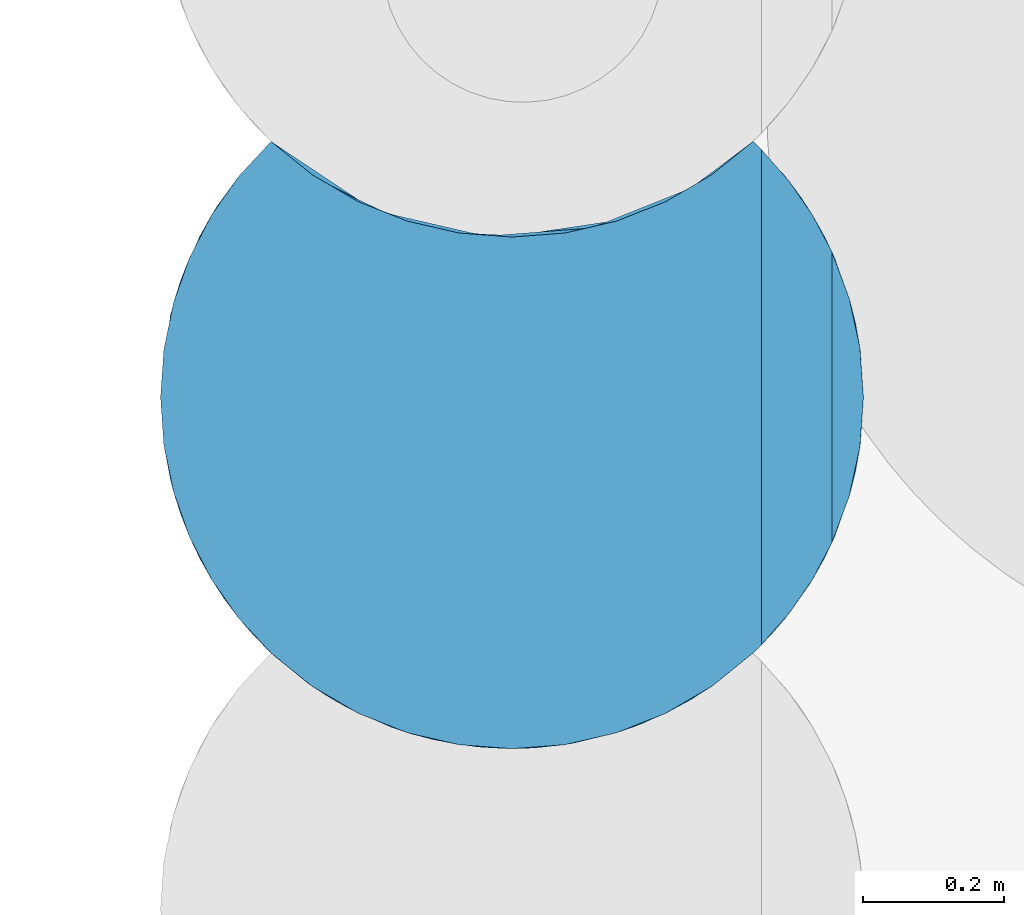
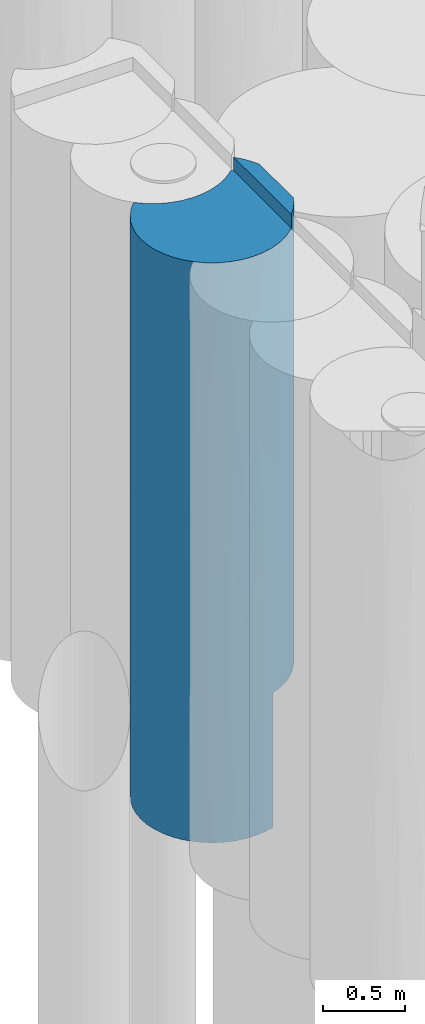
# One storey, part 18 of 104: 1 pile.
"""IFC2X3 building model written with IfcOpenShell, lengths in millimetres."""

from ifc_helpers import new_model, entity, si_unit, converted_unit, derived_unit, direction, frame, origin, place, context, subcontext, project, spatial, faceted_brep, source, transform, mapped, material, element, save


model = new_model("IFC2X3")

# Units and contexts
model_context = context("Model", 3, precision=0.01, world=origin(), true_north=direction((6.12303176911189e-17, 1.0)))
body_context = subcontext(model_context, "Body", "Model", "MODEL_VIEW")
ifc_project = project(units=[si_unit("LENGTHUNIT", "METRE", prefix="MILLI"), si_unit("AREAUNIT", "SQUARE_METRE", prefix="MILLI"), si_unit("VOLUMEUNIT", "CUBIC_METRE"), converted_unit("PLANEANGLEUNIT", "DEGREE", entity("IfcRatioMeasure", 0.0174532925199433), si_unit("PLANEANGLEUNIT", "RADIAN"), dimensions=[0, 0, 0, 0, 0, 0, 0]), si_unit("MASSUNIT", "GRAM", prefix="KILO"), derived_unit("MASSDENSITYUNIT", [(si_unit("MASSUNIT", "GRAM", prefix="KILO"), 1), (si_unit("LENGTHUNIT", "METRE"), -3)]), derived_unit("MOMENTOFINERTIAUNIT", [(si_unit("LENGTHUNIT", "METRE"), 4)]), si_unit("TIMEUNIT", "SECOND"), si_unit("FREQUENCYUNIT", "HERTZ"), si_unit("THERMODYNAMICTEMPERATUREUNIT", "DEGREE_CELSIUS"), derived_unit("THERMALTRANSMITTANCEUNIT", [(si_unit("MASSUNIT", "GRAM", prefix="KILO"), 1), (si_unit("THERMODYNAMICTEMPERATUREUNIT", "KELVIN"), -1), (si_unit("TIMEUNIT", "SECOND"), -3)]), derived_unit("VOLUMETRICFLOWRATEUNIT", [(si_unit("LENGTHUNIT", "METRE"), 3), (si_unit("TIMEUNIT", "SECOND"), -1)]), si_unit("ELECTRICCURRENTUNIT", "AMPERE"), si_unit("ELECTRICVOLTAGEUNIT", "VOLT"), si_unit("POWERUNIT", "WATT"), si_unit("FORCEUNIT", "NEWTON", prefix="KILO"), si_unit("ILLUMINANCEUNIT", "LUX"), si_unit("LUMINOUSFLUXUNIT", "LUMEN"), si_unit("LUMINOUSINTENSITYUNIT", "CANDELA"), derived_unit("USERDEFINED", [(si_unit("MASSUNIT", "GRAM", prefix="KILO"), -1), (si_unit("LENGTHUNIT", "METRE"), -2), (si_unit("TIMEUNIT", "SECOND"), 3), (si_unit("LUMINOUSFLUXUNIT", "LUMEN"), 1)]), derived_unit("LINEARVELOCITYUNIT", [(si_unit("LENGTHUNIT", "METRE"), 1), (si_unit("TIMEUNIT", "SECOND"), -1)]), si_unit("PRESSUREUNIT", "PASCAL"), derived_unit("USERDEFINED", [(si_unit("LENGTHUNIT", "METRE"), -2), (si_unit("MASSUNIT", "GRAM", prefix="KILO"), 1), (si_unit("TIMEUNIT", "SECOND"), -2)]), derived_unit("LINEARFORCEUNIT", [(si_unit("MASSUNIT", "GRAM", prefix="KILO"), 1), (si_unit("LENGTHUNIT", "METRE"), 1), (si_unit("TIMEUNIT", "SECOND"), -2), (si_unit("LENGTHUNIT", "METRE"), -1)]), derived_unit("PLANARFORCEUNIT", [(si_unit("MASSUNIT", "GRAM", prefix="KILO"), 1), (si_unit("LENGTHUNIT", "METRE"), 1), (si_unit("TIMEUNIT", "SECOND"), -2), (si_unit("LENGTHUNIT", "METRE"), -2)])], contexts=[model_context])

# Site, building, storey
site_placement = place(None, origin())
site = spatial("IfcSite", under=ifc_project, at=site_placement, Name="Theater aan de Parade", CompositionType="ELEMENT")
building_placement = place(site_placement, origin())
building = spatial("IfcBuilding", under=site, at=building_placement, Name="Theater aan de Parade", CompositionType="ELEMENT")
storey_placement = place(building_placement, frame((0.0, 0.0, -5520.0)))
storey = spatial("IfcBuildingStorey", under=building, at=storey_placement, Name="-2 kelder", CompositionType="ELEMENT", Elevation=-5520.0)

# Pile
ifc_material = material(Name="00_PBT_MAT_grout")
shared_shape = source(origin(), body_context, "Body", "Brep", [
    faceted_brep([(267.323279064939, 787.875187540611, 0.0), (328.369525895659, 760.561328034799, 0.0), (392.511444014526, 741.639620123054, 0.0), (458.603757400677, 731.446971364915, 0.0), (525.466685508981, 730.165441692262, 0.0), (591.906634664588, 737.819044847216, 0.0), (656.737142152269, 754.273275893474, 0.0), (656.737142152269, 26.2732758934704, 0.0), (591.893916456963, 9.81670940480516, 0.0), (525.446263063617, 2.16446597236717, 0.0), (458.576192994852, 3.44935101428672, 0.0), (392.48089006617, 13.6464515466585, 0.0), (328.341208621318, 32.5717872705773, 0.0), (267.302846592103, 59.8860247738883, 0.0), (210.456079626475, 95.1005360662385, 0.0), (158.824861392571, 137.584495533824, 0.0), (112.665117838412, 187.376662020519, 0.0), (73.6828393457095, 242.96242478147, 0.0), (42.5887722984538, 303.320127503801, 0.0), (19.9574025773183, 367.338196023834, 0.0), (6.20806806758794, 433.834531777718, 0.0), (1.5952722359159, 501.595272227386, 0.0), (6.20818208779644, 569.356846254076, 0.0), (19.9555085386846, 635.845553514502, 0.0), (42.5833371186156, 699.857834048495, 0.0), (73.6726367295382, 760.211238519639, 0.0), (112.651085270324, 815.796512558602, 0.0), (158.806707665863, 865.595272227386, 0.0), (210.467388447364, 823.092436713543, 0.0), (996.985169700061, 569.336319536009, 1000.0), (983.239874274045, 635.828194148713, 1000.0), (990.78787753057, 604.990605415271, 2046.74388221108), (956.737142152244, 708.587731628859, 4220.0), (913.164689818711, 785.515356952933, 3409.23226430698), (929.194279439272, 760.745979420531, 4420.0), (981.489086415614, 641.958825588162, 4220.0), (996.543202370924, 572.493413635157, 4220.0), (990.252070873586, 607.49396506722, 3133.13649523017), (946.092881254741, 730.553512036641, 2544.3070393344), (844.383836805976, 865.59527222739, 1780.76883738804), (844.383836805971, 865.595272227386, 2561.53770628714), (844.383836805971, 865.59527222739, 2758.4623252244), (958.757648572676, 704.086165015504, 3361.07160063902), (895.702066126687, 809.296157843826, 4420.0), (1001.59527223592, 501.595272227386, 1000.0), (1001.59527223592, 501.595272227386, 3390.76887054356), (956.737142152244, 708.587731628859, 4420.0), (1001.59527223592, 501.595272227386, 2561.53774108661), (960.61285484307, 699.844758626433, 1000.0), (856.737142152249, 853.553014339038, 4320.0), (850.61243060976, 859.627426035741, 4320.0), (844.383836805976, 865.595272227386, 3440.76885314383), (844.383836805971, 865.59527222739, 4320.0), (890.538738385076, 815.797404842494, 1000.0), (844.383836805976, 865.59527222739, 1000.0), (1001.59527223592, 501.595272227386, 4220.0), (929.521362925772, 760.205521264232, 1000.0), (856.737142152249, 853.553014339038, 4420.0), (57.1101078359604, 272.612874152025, 1316.49280707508), (946.091792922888, 272.634919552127, 2497.84558901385), (990.787651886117, 398.198871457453, 2046.72670191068), (990.252071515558, 395.696582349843, 3133.13650739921), (756.716999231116, 71.580267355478, 1930.84616082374), (868.311668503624, 161.714286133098, 1823.04093486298), (847.500261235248, 140.555470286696, 2660.0), (134.892306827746, 161.699795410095, 1057.44780840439), (491.989719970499, 1.68754737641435, 1404.68734990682), (360.094293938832, 22.0356063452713, 1052.824173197), (539.334595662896, 3.02156306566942, 2901.77612704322), (691.143383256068, 38.9166433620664, 2656.11014799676), (670.01019924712, 30.8125066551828, 3485.90902426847), (576.855722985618, 7.29185877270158, 4320.0), (650.397164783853, 24.2505364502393, 4320.0), (996.982304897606, 433.83327793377, 1000.0), (983.235932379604, 367.348207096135, 1000.0), (92.2110047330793, 214.533394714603, 3172.2535251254), (30.1799105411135, 334.95927144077, 3445.3851444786), (30.1799105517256, 334.959271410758, 2516.73624277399), (19.9546063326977, 367.348227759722, 4320.0), (6.20831854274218, 433.832700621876, 4320.0), (238.290103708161, 76.5418776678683, 1404.63078403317), (847.500261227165, 140.555470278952, 3490.46984000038), (785.707955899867, 90.1587850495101, 4320.0), (753.846971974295, 69.8904193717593, 3399.95181773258), (112.643720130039, 187.40314929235, 4320.0), (73.6672637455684, 242.988196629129, 4320.0), (787.532221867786, 91.4245018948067, 1000.0), (844.383836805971, 137.595272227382, 1000.0), (890.546344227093, 187.402554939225, 1000.0), (929.522843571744, 242.987473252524, 1000.0), (1.5952722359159, 501.595272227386, 1561.53161059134), (1.5952722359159, 501.595272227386, 2940.77462173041), (674.417605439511, 32.4125347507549, 1827.33519803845), (585.825722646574, 8.74110391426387, 1571.19592302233), (656.73714215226, 26.2732758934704, 1000.0), (42.5805162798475, 303.33924126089, 4320.0), (1.59527223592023, 501.595272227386, 4320.0), (134.892306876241, 161.699795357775, 2159.99586512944), (15.8912046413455, 382.887400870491, 1514.9217274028), (1.5952722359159, 501.595272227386, 2758.45715325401), (389.247683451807, 14.380720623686, 3244.88794352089), (249.345077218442, 69.8895401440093, 2978.06322869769), (360.094293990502, 22.0356063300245, 2149.62656965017), (720.54721601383, 52.0843754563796, 4320.0), (163.035278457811, 133.658958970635, 3084.10388307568), (282.64537661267, 52.0833778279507, 4320.0), (217.483581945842, 90.1580990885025, 4320.0), (426.339538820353, 7.29114055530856, 4320.0), (352.79668917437, 24.2495048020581, 4320.0), (501.598192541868, 1.5952722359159, 4320.0), (449.071524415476, 4.36166926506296, 2521.18102248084), (956.737142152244, 294.602812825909, 4220.0), (929.203275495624, 242.459409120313, 4420.0), (925.786159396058, 236.902825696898, 3422.73924696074), (960.609833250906, 303.338789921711, 1000.0), (724.530883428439, 54.0467125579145, 1000.0), (996.54320237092, 430.697130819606, 4220.0), (981.489086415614, 361.231718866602, 4220.0), (844.383836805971, 137.595272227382, 4320.0), (850.591123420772, 143.54234896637, 4320.0), (856.737142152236, 149.637530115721, 4320.0), (72.9794499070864, 244.129785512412, 2273.29113064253), (158.806707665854, 137.595272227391, 4320.0), (895.734515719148, 193.9359529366, 4420.0), (856.737142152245, 149.63753011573, 4420.0), (956.737142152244, 294.602812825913, 4420.0), (297.389215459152, 773.196448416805, 1404.47162504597), (613.937329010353, 742.379445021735, 2653.03150973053), (530.994805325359, 730.460353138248, 2050.76406694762), (463.861374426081, 731.021152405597, 3233.09526452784), (656.737142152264, 754.273275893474, 1000.0), (492.01377186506, 729.687085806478, 1140.51945206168), (619.657892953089, 743.733957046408, 1789.43089182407), (227.11070635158, 811.673960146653, 3337.61357922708), (158.806707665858, 865.59527222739, 2758.4622926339), (158.806707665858, 865.595272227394, 4320.0), (282.655959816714, 780.07822307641, 4320.0), (352.804483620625, 752.247075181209, 4320.0), (317.204383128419, 764.837270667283, 3016.85071920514), (501.595272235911, 729.595272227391, 4320.0), (576.847851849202, 735.290660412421, 4320.0), (613.937328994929, 742.379445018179, 3522.64310373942), (753.834283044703, 797.883005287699, 3166.78787605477), (756.706671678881, 799.574140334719, 2057.42784165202), (425.387004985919, 735.437099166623, 2149.06733909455), (392.465961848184, 741.649790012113, 1269.58220085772), (158.806707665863, 865.59527222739, 1379.22947627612), (158.806707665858, 865.59527222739, 1561.53770736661), (785.695330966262, 818.150067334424, 4320.0), (240.874329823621, 802.951872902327, 2287.63634853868), (426.342692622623, 735.290660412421, 4320.0), (720.534584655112, 780.078223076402, 4320.0), (724.52149740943, 782.042037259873, 1000.0), (650.386060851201, 752.247075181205, 4320.0), (787.521122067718, 819.416764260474, 1000.0), (335.032355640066, 758.154083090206, 2177.10511890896), (217.495213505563, 818.150067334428, 4320.0), (112.651806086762, 815.797404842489, 4320.0), (73.6691815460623, 760.205521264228, 4320.0), (42.5776896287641, 699.844758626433, 4320.0), (19.9506701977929, 635.828194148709, 4320.0), (6.20537477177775, 569.336319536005, 4320.0), (15.4611002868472, 618.529300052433, 1993.01692752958), (30.1816558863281, 668.236210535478, 982.635361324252), (82.1945983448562, 773.814071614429, 2804.88372013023), (57.1024527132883, 730.562810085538, 1803.15273010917), (73.0275224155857, 759.140770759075, 926.606949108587), (30.1762796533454, 668.221000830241, 3003.46839526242)], [[[0, 1, 2, 3, 4, 5, 6, 7, 8, 9, 10, 11, 12, 13, 14, 15, 16, 17, 18, 19, 20, 21, 22, 23, 24, 25, 26, 27, 28]], [[29, 30, 31]], [[32, 33, 34]], [[35, 36, 37]], [[38, 39, 40, 41]], [[35, 37, 42]], [[37, 31, 38]], [[42, 38, 33]], [[33, 43, 34]], [[44, 29, 31]], [[36, 45, 37]], [[46, 32, 34]], [[38, 41, 33]], [[35, 42, 32]], [[31, 47, 44]], [[31, 30, 48]], [[48, 38, 31]], [[31, 37, 47]], [[49, 41, 50]], [[50, 41, 51, 52]], [[53, 54, 39]], [[42, 33, 32]], [[45, 36, 55]], [[38, 48, 56]], [[53, 39, 38]], [[57, 43, 49]], [[33, 49, 43]], [[49, 33, 41]], [[45, 47, 37]], [[53, 38, 56]], [[37, 38, 42]], [[18, 17, 58]], [[59, 60, 61]], [[62, 63, 64]], [[65, 58, 17]], [[10, 66, 67]], [[68, 69, 70]], [[71, 70, 72]], [[19, 18, 58]], [[65, 16, 15]], [[73, 60, 74]], [[67, 12, 11]], [[75, 76, 77]], [[76, 78, 79]], [[66, 10, 9]], [[13, 80, 14]], [[81, 82, 83]], [[13, 12, 67]], [[83, 62, 64]], [[83, 69, 62]], [[80, 13, 67]], [[84, 85, 75]], [[63, 86, 87]], [[63, 88, 89]], [[83, 70, 69]], [[21, 20, 90]], [[79, 91, 76]], [[92, 93, 94]], [[76, 85, 95]], [[77, 76, 91]], [[96, 91, 79]], [[68, 66, 93]], [[80, 97, 65]], [[76, 95, 78]], [[98, 91, 99, 90]], [[75, 85, 76]], [[100, 101, 102]], [[60, 73, 44]], [[103, 70, 83]], [[104, 84, 75]], [[97, 104, 75]], [[100, 105, 101]], [[105, 106, 101]], [[100, 107, 108]], [[14, 80, 65]], [[68, 109, 100]], [[19, 58, 98]], [[110, 68, 100]], [[111, 112, 113]], [[102, 67, 66]], [[68, 92, 69]], [[94, 8, 7]], [[100, 108, 105]], [[93, 9, 8]], [[114, 74, 60]], [[92, 115, 62]], [[104, 97, 101]], [[63, 59, 64]], [[92, 62, 69]], [[62, 86, 63]], [[68, 71, 109]], [[47, 61, 60]], [[80, 101, 97]], [[67, 11, 10]], [[45, 116, 61]], [[89, 114, 59]], [[101, 80, 102]], [[64, 59, 113]], [[115, 86, 62]], [[65, 17, 16]], [[89, 59, 63]], [[117, 61, 116]], [[109, 107, 100]], [[64, 113, 81]], [[59, 61, 113]], [[64, 81, 83]], [[82, 103, 83]], [[44, 47, 60]], [[58, 77, 98]], [[70, 103, 72]], [[118, 81, 119]], [[88, 63, 87]], [[119, 81, 120]], [[71, 68, 70]], [[82, 81, 118]], [[45, 55, 116]], [[61, 111, 113]], [[121, 75, 77]], [[104, 106, 122]], [[65, 15, 14]], [[120, 123, 124]], [[111, 61, 117]], [[120, 81, 123]], [[125, 112, 111]], [[58, 65, 97]], [[59, 114, 60]], [[113, 123, 81]], [[75, 121, 97]], [[19, 98, 20]], [[123, 113, 112]], [[8, 94, 93]], [[100, 102, 110]], [[80, 67, 102]], [[115, 92, 94]], [[68, 93, 92]], [[93, 66, 9]], [[106, 104, 101]], [[84, 104, 122]], [[91, 98, 77]], [[98, 90, 20]], [[77, 58, 121]], [[58, 97, 121]], [[102, 66, 110]], [[66, 68, 110]], [[61, 47, 45]], [[125, 46, 34, 43, 57, 124, 123, 112]], [[126, 0, 28]], [[127, 128, 129]], [[130, 131, 132]], [[133, 134, 135]], [[136, 137, 138]], [[139, 140, 141]], [[142, 143, 127]], [[144, 131, 145]], [[127, 141, 142]], [[145, 131, 3]], [[28, 27, 146, 147]], [[131, 4, 3]], [[143, 40, 39, 54]], [[148, 51, 142]], [[126, 147, 149]], [[136, 138, 133]], [[129, 144, 138]], [[1, 0, 126]], [[150, 129, 137]], [[144, 128, 131]], [[129, 139, 141]], [[128, 132, 131]], [[5, 131, 130]], [[141, 127, 129]], [[144, 129, 128]], [[5, 130, 6]], [[40, 143, 142]], [[149, 133, 138]], [[138, 137, 129]], [[142, 151, 148]], [[127, 143, 132]], [[1, 145, 2]], [[132, 143, 152]], [[150, 139, 129]], [[153, 141, 140]], [[4, 131, 5]], [[154, 152, 143]], [[141, 151, 142]], [[138, 144, 155]], [[133, 156, 136]], [[148, 52, 51]], [[127, 132, 128]], [[153, 151, 141]], [[155, 144, 145]], [[54, 154, 143]], [[147, 126, 28]], [[152, 130, 132]], [[126, 145, 1]], [[2, 145, 3]], [[156, 133, 135]], [[134, 133, 149]], [[134, 149, 147]], [[155, 126, 149]], [[138, 155, 149]], [[126, 155, 145]], [[142, 51, 41, 40]], [[136, 156, 135, 157, 158, 159, 160, 161, 96, 79, 78, 95, 85, 84, 122, 106, 105, 108, 107, 109, 71, 72, 103, 82, 118, 119, 120, 49, 50, 52, 148, 151, 153, 140, 139, 150, 137]], [[57, 49, 120, 124]], [[115, 94, 130, 152, 154, 54, 53, 56, 48, 30, 29, 44, 73, 74, 114, 89, 88, 87, 86]], [[130, 94, 7, 6]], [[157, 135, 134]], [[99, 162, 90]], [[163, 90, 162]], [[163, 24, 23]], [[164, 146, 165]], [[26, 166, 146]], [[134, 164, 157]], [[166, 24, 163]], [[25, 24, 166]], [[90, 163, 22]], [[161, 99, 91, 96]], [[165, 146, 166]], [[157, 164, 158]], [[22, 163, 23]], [[161, 167, 99]], [[99, 167, 162]], [[167, 160, 159]], [[167, 164, 165]], [[22, 21, 90]], [[25, 166, 26]], [[159, 158, 167]], [[163, 165, 166]], [[27, 26, 146]], [[165, 163, 162]], [[165, 162, 167]], [[161, 160, 167]], [[158, 164, 167]], [[164, 134, 147, 146]], [[116, 55, 36, 35, 32, 111, 117]], [[32, 46, 125, 111]]]),
])
pile_placement = place(storey_placement, frame((34348.2628578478, 24428.7721311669, -3840.0)))
element("IfcPile", 1, at=pile_placement, inside=storey, material=ifc_material, Name="17_PBT_SFO_grondkering_rond:Ø1000 (grondkering)", ObjectType="17_PBT_SFO_grondkering_rond:Ø1000 (grondkering)", PredefinedType="NOTDEFINED", context=body_context, shape_type="MappedRepresentation", body=[
    mapped(shared_shape, transform((0.0, 0.0, 0.0), scale=1.0)),
])

save(model, "model.ifc")
